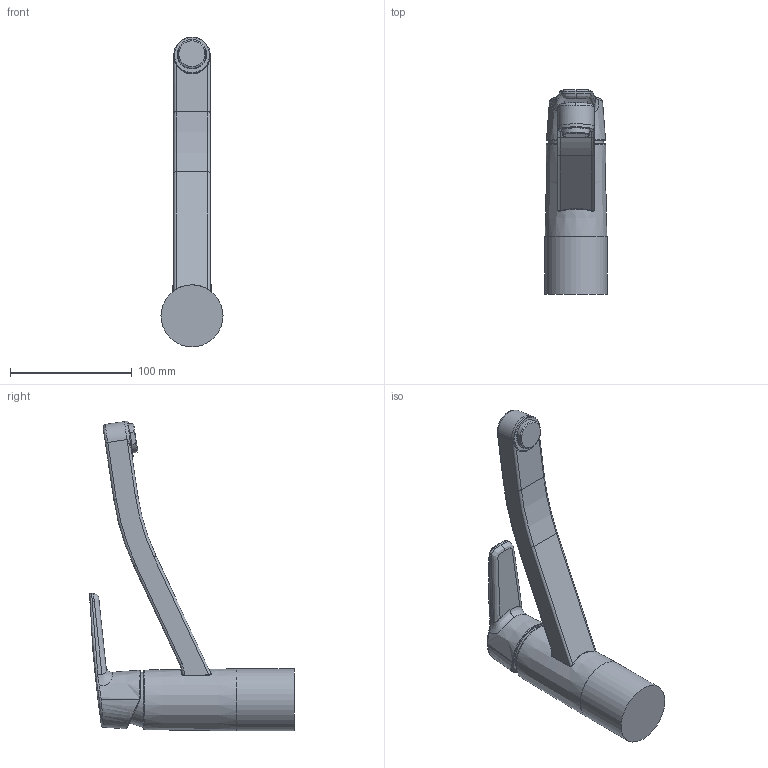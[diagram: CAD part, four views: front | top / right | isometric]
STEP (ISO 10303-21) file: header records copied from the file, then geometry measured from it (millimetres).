
FILE_DESCRIPTION (( 'STEP AP203' ), '1' );
FILE_NAME ('3930(2016)+3930F(2016)+51482293+514822930037+5148229300676+51591193.STEP', '2017-03-09T05:50:57', ( '' ), ( '' ), 'SwSTEP 2.0', 'SolidWorks 2016', '' );
FILE_SCHEMA (( 'CONFIG_CONTROL_DESIGN' ));
Length unit declared in the file: millimetre
Products named in the file (1): 3930(2016)+3930F(2016)+51482293+514822930037+5148229300676+51591193
Bounding box: 51 x 168.1 x 254.74 mm (x, y, z)
Volume: 453142.1 mm3; surface area: 54140.3 mm2
Topology: 1 solids, 1 shells, 91 faces, 276 edges, 192 vertices
Faces by surface type: bspline 40, cylinder 19, plane 18, torus 9, cone 5
Full cylindrical faces by diameter (mm): 24 x1, 50.567 x1, 51 x1
Entity records: 13150 total; most frequent: CARTESIAN_POINT 11104, ORIENTED_EDGE 522, EDGE_CURVE 261, DIRECTION 243, VERTEX_POINT 187, B_SPLINE_CURVE_WITH_KNOTS 160, EDGE_LOOP 106, AXIS2_PLACEMENT_3D 104
